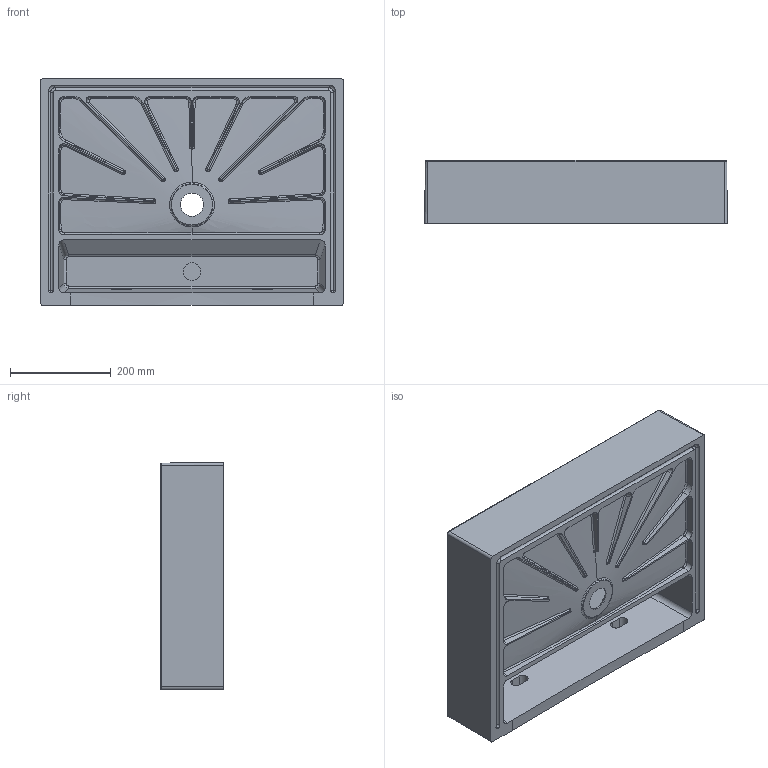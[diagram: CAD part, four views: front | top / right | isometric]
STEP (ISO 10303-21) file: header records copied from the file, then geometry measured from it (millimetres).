
FILE_DESCRIPTION (( 'STEP AP203' ), '1' );
FILE_NAME ('EQA60.STEP', '2017-03-06T17:03:35', ( '' ), ( '' ), 'SwSTEP 2.0', 'SolidWorks 2017', '' );
FILE_SCHEMA (( 'CONFIG_CONTROL_DESIGN' ));
Length unit declared in the file: millimetre
Products named in the file (1): EQA60
Bounding box: 600 x 125 x 450 mm (x, y, z)
Volume: 9862201.3 mm3; surface area: 1080794.8 mm2
Topology: 1 solids, 1 shells, 270 faces, 674 edges, 402 vertices
Faces by surface type: bspline 114, cylinder 76, plane 64, sphere 8, torus 6, cone 2
Full cylindrical faces by diameter (mm): 35 x1
Entity records: 22010 total; most frequent: CARTESIAN_POINT 16574, ORIENTED_EDGE 1318, DIRECTION 861, EDGE_CURVE 659, VERTEX_POINT 400, AXIS2_PLACEMENT_3D 326, EDGE_LOOP 285, FACE_OUTER_BOUND 273
